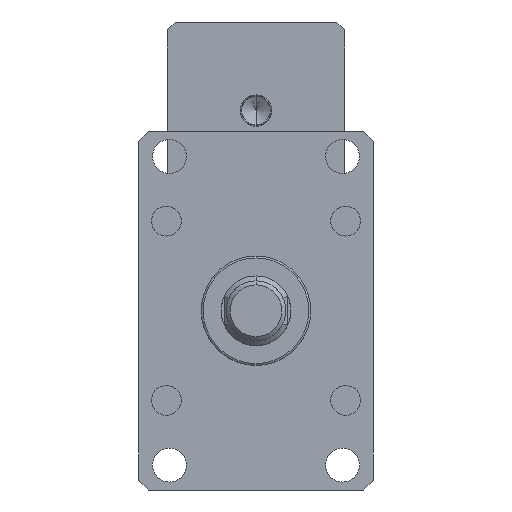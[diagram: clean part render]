
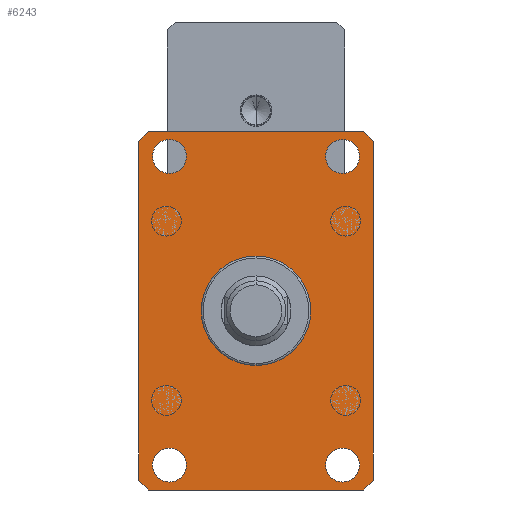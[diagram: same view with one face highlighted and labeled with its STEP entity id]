
A CAD part, front view. The second image highlights one B-rep face of the part: STEP entity #6243.
In plain terms, the highlighted planar face has unit normal (0, -1, 0).
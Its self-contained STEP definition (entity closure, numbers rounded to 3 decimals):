
#125 = DIRECTION ( 'NONE',  ( 0., -1., 0. ) ) ;
#146 = EDGE_LOOP ( 'NONE', ( #6436, #8552 ) ) ;
#195 = LINE ( 'NONE', #7475, #5139 ) ;
#301 = DIRECTION ( 'NONE',  ( 0.707, 0., -0.707 ) ) ;
#462 = CARTESIAN_POINT ( 'NONE',  ( -43.5, -55., 77.5 ) ) ;
#506 = VERTEX_POINT ( 'NONE', #11526 ) ;
#673 = CARTESIAN_POINT ( 'NONE',  ( -59., -55., 85. ) ) ;
#692 = DIRECTION ( 'NONE',  ( 0., 0., 1. ) ) ;
#723 = FACE_BOUND ( 'NONE', #10825, .T. ) ;
#771 = EDGE_LOOP ( 'NONE', ( #9461, #1087 ) ) ;
#772 = VERTEX_POINT ( 'NONE', #1462 ) ;
#774 = CARTESIAN_POINT ( 'NONE',  ( -43.5, -55., 69. ) ) ;
#1087 = ORIENTED_EDGE ( 'NONE', *, *, #5701, .T. ) ;
#1126 = VECTOR ( 'NONE', #6951, 1000. ) ;
#1310 = LINE ( 'NONE', #4873, #10402 ) ;
#1456 = DIRECTION ( 'NONE',  ( 0., 0., -1. ) ) ;
#1462 = CARTESIAN_POINT ( 'NONE',  ( -43.5, -55., -69. ) ) ;
#1471 = AXIS2_PLACEMENT_3D ( 'NONE', #9953, #4227, #10921 ) ;
#1509 = VERTEX_POINT ( 'NONE', #2038 ) ;
#1636 = DIRECTION ( 'NONE',  ( -0.707, 0., -0.707 ) ) ;
#2038 = CARTESIAN_POINT ( 'NONE',  ( 59., -55., -85. ) ) ;
#2133 = CIRCLE ( 'NONE', #11648, 8.5 ) ;
#2201 = DIRECTION ( 'NONE',  ( 0., 1., 0. ) ) ;
#2334 = VERTEX_POINT ( 'NONE', #6331 ) ;
#2372 = VECTOR ( 'NONE', #7157, 1000. ) ;
#2556 = LINE ( 'NONE', #9974, #9935 ) ;
#2602 = CARTESIAN_POINT ( 'NONE',  ( -43.5, -55., -77.5 ) ) ;
#2608 = EDGE_LOOP ( 'NONE', ( #8719, #5853, #3517, #8928, #3717, #5085, #10779, #5773 ) ) ;
#2755 = FACE_BOUND ( 'NONE', #146, .T. ) ;
#3028 = LINE ( 'NONE', #673, #7862 ) ;
#3154 = CARTESIAN_POINT ( 'NONE',  ( 43.5, -55., 77.5 ) ) ;
#3201 = CARTESIAN_POINT ( 'NONE',  ( 43.5, -55., -69. ) ) ;
#3270 = ORIENTED_EDGE ( 'NONE', *, *, #6950, .T. ) ;
#3517 = ORIENTED_EDGE ( 'NONE', *, *, #7016, .T. ) ;
#3592 = DIRECTION ( 'NONE',  ( 0., 0., 1. ) ) ;
#3638 = CARTESIAN_POINT ( 'NONE',  ( -54., -55., -90. ) ) ;
#3717 = ORIENTED_EDGE ( 'NONE', *, *, #11934, .T. ) ;
#3768 = CARTESIAN_POINT ( 'NONE',  ( -43.5, -55., 77.5 ) ) ;
#3868 = DIRECTION ( 'NONE',  ( 1., 0., 0. ) ) ;
#3957 = CIRCLE ( 'NONE', #5629, 8.5 ) ;
#4012 = CARTESIAN_POINT ( 'NONE',  ( -54., -55., 90. ) ) ;
#4022 = AXIS2_PLACEMENT_3D ( 'NONE', #12294, #6554, #692 ) ;
#4136 = DIRECTION ( 'NONE',  ( 0., 0., -1. ) ) ;
#4226 = EDGE_CURVE ( 'NONE', #11193, #8358, #6295, .T. ) ;
#4227 = DIRECTION ( 'NONE',  ( 0., 1., 0. ) ) ;
#4344 = EDGE_CURVE ( 'NONE', #10464, #1509, #7539, .T. ) ;
#4390 = LINE ( 'NONE', #4012, #1126 ) ;
#4755 = DIRECTION ( 'NONE',  ( 0., 0., -1. ) ) ;
#4873 = CARTESIAN_POINT ( 'NONE',  ( -54., -55., -90. ) ) ;
#5085 = ORIENTED_EDGE ( 'NONE', *, *, #4344, .T. ) ;
#5139 = VECTOR ( 'NONE', #1636, 1000. ) ;
#5180 = LINE ( 'NONE', #5226, #8005 ) ;
#5220 = CARTESIAN_POINT ( 'NONE',  ( 54., -55., -90. ) ) ;
#5226 = CARTESIAN_POINT ( 'NONE',  ( 54., -55., 90. ) ) ;
#5340 = FACE_OUTER_BOUND ( 'NONE', #2608, .T. ) ;
#5374 = DIRECTION ( 'NONE',  ( 0., 1., 0. ) ) ;
#5629 = AXIS2_PLACEMENT_3D ( 'NONE', #2602, #9323, #3592 ) ;
#5654 = FACE_BOUND ( 'NONE', #10938, .T. ) ;
#5701 = EDGE_CURVE ( 'NONE', #7124, #6236, #10740, .T. ) ;
#5773 = ORIENTED_EDGE ( 'NONE', *, *, #6786, .T. ) ;
#5807 = VERTEX_POINT ( 'NONE', #3638 ) ;
#5853 = ORIENTED_EDGE ( 'NONE', *, *, #8438, .T. ) ;
#5991 = CARTESIAN_POINT ( 'NONE',  ( 43.5, -55., 77.5 ) ) ;
#6208 = EDGE_CURVE ( 'NONE', #6236, #7124, #10730, .T. ) ;
#6236 = VERTEX_POINT ( 'NONE', #3201 ) ;
#6243 = ADVANCED_FACE ( 'NONE', ( #5654, #7884, #723, #5340, #2755 ), #8043, .F. ) ;
#6295 = CIRCLE ( 'NONE', #6934, 8.5 ) ;
#6331 = CARTESIAN_POINT ( 'NONE',  ( -59., -55., 85. ) ) ;
#6423 = CARTESIAN_POINT ( 'NONE',  ( 43.5, -55., 69. ) ) ;
#6436 = ORIENTED_EDGE ( 'NONE', *, *, #10947, .F. ) ;
#6478 = VERTEX_POINT ( 'NONE', #11157 ) ;
#6554 = DIRECTION ( 'NONE',  ( 0., 1., 0. ) ) ;
#6786 = EDGE_CURVE ( 'NONE', #7654, #6478, #5180, .T. ) ;
#6801 = CARTESIAN_POINT ( 'NONE',  ( 59., -55., 85. ) ) ;
#6810 = EDGE_CURVE ( 'NONE', #11518, #5807, #2556, .T. ) ;
#6934 = AXIS2_PLACEMENT_3D ( 'NONE', #5991, #125, #6957 ) ;
#6950 = EDGE_CURVE ( 'NONE', #772, #12130, #3957, .T. ) ;
#6951 = DIRECTION ( 'NONE',  ( -1., 0., 0. ) ) ;
#6957 = DIRECTION ( 'NONE',  ( 0., 0., -1. ) ) ;
#7016 = EDGE_CURVE ( 'NONE', #2334, #11518, #3028, .T. ) ;
#7035 = CARTESIAN_POINT ( 'NONE',  ( 59., -55., 85. ) ) ;
#7124 = VERTEX_POINT ( 'NONE', #7671 ) ;
#7157 = DIRECTION ( 'NONE',  ( 0.707, 0., 0.707 ) ) ;
#7246 = EDGE_CURVE ( 'NONE', #6478, #11232, #4390, .T. ) ;
#7297 = DIRECTION ( 'NONE',  ( 0., -1., 0. ) ) ;
#7475 = CARTESIAN_POINT ( 'NONE',  ( -59., -55., 85. ) ) ;
#7539 = LINE ( 'NONE', #9022, #2372 ) ;
#7654 = VERTEX_POINT ( 'NONE', #6801 ) ;
#7671 = CARTESIAN_POINT ( 'NONE',  ( 43.5, -55., -86. ) ) ;
#7691 = EDGE_CURVE ( 'NONE', #1509, #7654, #12028, .T. ) ;
#7789 = CARTESIAN_POINT ( 'NONE',  ( -59., -55., -85. ) ) ;
#7862 = VECTOR ( 'NONE', #9396, 1000. ) ;
#7884 = FACE_BOUND ( 'NONE', #771, .T. ) ;
#8002 = DIRECTION ( 'NONE',  ( 0., 0., 1. ) ) ;
#8003 = CARTESIAN_POINT ( 'NONE',  ( 43.5, -55., -77.5 ) ) ;
#8005 = VECTOR ( 'NONE', #11908, 1000. ) ;
#8043 = PLANE ( 'NONE',  #1471 ) ;
#8293 = EDGE_CURVE ( 'NONE', #8584, #506, #11088, .T. ) ;
#8298 = CIRCLE ( 'NONE', #11897, 8.5 ) ;
#8358 = VERTEX_POINT ( 'NONE', #9234 ) ;
#8438 = EDGE_CURVE ( 'NONE', #11232, #2334, #195, .T. ) ;
#8552 = ORIENTED_EDGE ( 'NONE', *, *, #4226, .F. ) ;
#8584 = VERTEX_POINT ( 'NONE', #774 ) ;
#8719 = ORIENTED_EDGE ( 'NONE', *, *, #7246, .T. ) ;
#8884 = AXIS2_PLACEMENT_3D ( 'NONE', #462, #7297, #1456 ) ;
#8928 = ORIENTED_EDGE ( 'NONE', *, *, #6810, .T. ) ;
#8932 = DIRECTION ( 'NONE',  ( 0., 0., 1. ) ) ;
#9022 = CARTESIAN_POINT ( 'NONE',  ( 59., -55., -85. ) ) ;
#9167 = ORIENTED_EDGE ( 'NONE', *, *, #10748, .F. ) ;
#9234 = CARTESIAN_POINT ( 'NONE',  ( 43.5, -55., 86. ) ) ;
#9323 = DIRECTION ( 'NONE',  ( 0., 1., 0. ) ) ;
#9396 = DIRECTION ( 'NONE',  ( 0., 0., -1. ) ) ;
#9461 = ORIENTED_EDGE ( 'NONE', *, *, #6208, .T. ) ;
#9463 = VECTOR ( 'NONE', #8002, 1000. ) ;
#9860 = DIRECTION ( 'NONE',  ( 0., -1., 0. ) ) ;
#9935 = VECTOR ( 'NONE', #301, 1000. ) ;
#9953 = CARTESIAN_POINT ( 'NONE',  ( 59., -55., 90. ) ) ;
#9974 = CARTESIAN_POINT ( 'NONE',  ( -59., -55., -85. ) ) ;
#10003 = EDGE_CURVE ( 'NONE', #12130, #772, #11240, .T. ) ;
#10144 = AXIS2_PLACEMENT_3D ( 'NONE', #8003, #2201, #8932 ) ;
#10402 = VECTOR ( 'NONE', #3868, 1000. ) ;
#10457 = DIRECTION ( 'NONE',  ( 0., -1., 0. ) ) ;
#10464 = VERTEX_POINT ( 'NONE', #5220 ) ;
#10730 = CIRCLE ( 'NONE', #10144, 8.5 ) ;
#10740 = CIRCLE ( 'NONE', #11936, 8.5 ) ;
#10748 = EDGE_CURVE ( 'NONE', #506, #8584, #8298, .T. ) ;
#10757 = ORIENTED_EDGE ( 'NONE', *, *, #10003, .T. ) ;
#10779 = ORIENTED_EDGE ( 'NONE', *, *, #7691, .T. ) ;
#10825 = EDGE_LOOP ( 'NONE', ( #3270, #10757 ) ) ;
#10921 = DIRECTION ( 'NONE',  ( 0., 0., 1. ) ) ;
#10938 = EDGE_LOOP ( 'NONE', ( #9167, #12460 ) ) ;
#10947 = EDGE_CURVE ( 'NONE', #8358, #11193, #2133, .T. ) ;
#11085 = CARTESIAN_POINT ( 'NONE',  ( 43.5, -55., -77.5 ) ) ;
#11088 = CIRCLE ( 'NONE', #8884, 8.5 ) ;
#11157 = CARTESIAN_POINT ( 'NONE',  ( 54., -55., 90. ) ) ;
#11193 = VERTEX_POINT ( 'NONE', #6423 ) ;
#11232 = VERTEX_POINT ( 'NONE', #12392 ) ;
#11240 = CIRCLE ( 'NONE', #4022, 8.5 ) ;
#11518 = VERTEX_POINT ( 'NONE', #7789 ) ;
#11526 = CARTESIAN_POINT ( 'NONE',  ( -43.5, -55., 86. ) ) ;
#11648 = AXIS2_PLACEMENT_3D ( 'NONE', #3154, #9860, #4136 ) ;
#11897 = AXIS2_PLACEMENT_3D ( 'NONE', #3768, #10457, #4755 ) ;
#11908 = DIRECTION ( 'NONE',  ( -0.707, 0., 0.707 ) ) ;
#11934 = EDGE_CURVE ( 'NONE', #5807, #10464, #1310, .T. ) ;
#11936 = AXIS2_PLACEMENT_3D ( 'NONE', #11085, #5374, #12071 ) ;
#11954 = CARTESIAN_POINT ( 'NONE',  ( -43.5, -55., -86. ) ) ;
#12028 = LINE ( 'NONE', #7035, #9463 ) ;
#12071 = DIRECTION ( 'NONE',  ( 0., 0., 1. ) ) ;
#12130 = VERTEX_POINT ( 'NONE', #11954 ) ;
#12294 = CARTESIAN_POINT ( 'NONE',  ( -43.5, -55., -77.5 ) ) ;
#12392 = CARTESIAN_POINT ( 'NONE',  ( -54., -55., 90. ) ) ;
#12460 = ORIENTED_EDGE ( 'NONE', *, *, #8293, .F. ) ;
